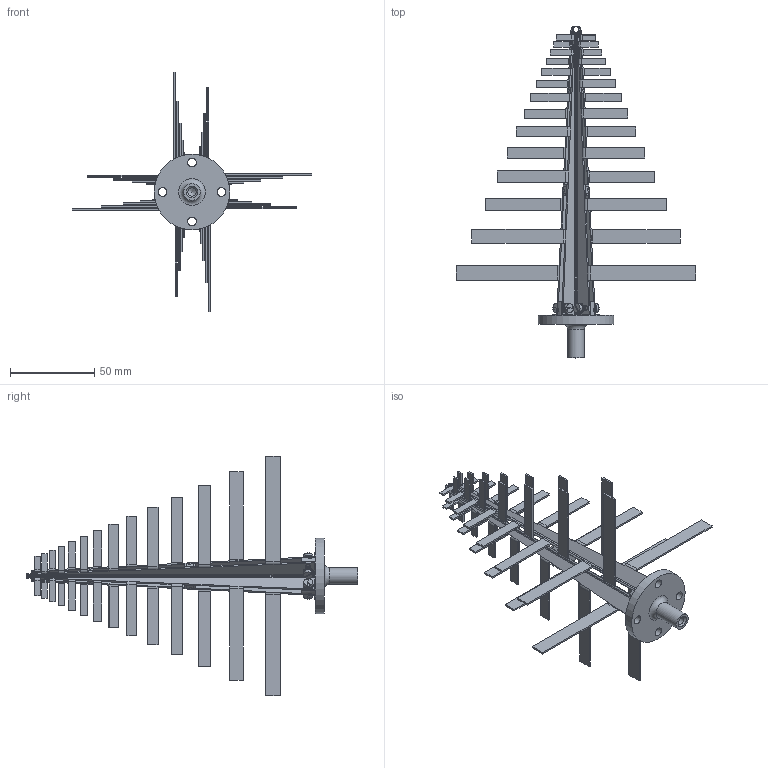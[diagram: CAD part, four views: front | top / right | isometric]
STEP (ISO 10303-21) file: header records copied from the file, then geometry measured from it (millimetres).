
FILE_DESCRIPTION(('STEP AP203'), '1');
FILE_NAME('挓鋹欑蠈錪', '', ('UNSPECIFIED'), ('UNSPECIFIED'), 'ASCON STEP Converter 1.3', 'ASCON Math Kernel', '');
FILE_SCHEMA(('CONFIG_CONTROL_DESIGN'));
Length unit declared in the file: millimetre
Assembly tree (31 placements, depth 2):
  (unnamed)
    (unnamed)
    (unnamed)  x2
    (unnamed)  x2
    (unnamed)
    (unnamed)
    (unnamed)  x8
    (unnamed)  x8
    (unnamed)
    (unnamed)
    (unnamed)
    (unnamed)
    (unnamed)
    (unnamed)
    (unnamed)
    (unnamed)
Bounding box: 142.65 x 197.6 x 142.65 mm (x, y, z)
Volume: 31187.7 mm3; surface area: 52515.6 mm2
Topology: 31 solids, 31 shells, 1008 faces, 2300 edges, 1378 vertices
Faces by surface type: plane 746, cylinder 223, bspline 28, cone 10, torus 1
Full cylindrical faces by diameter (mm): 2.5 x8, 3 x8, 3.2 x24, 4.917 x1, 5.2 x4, 5.5 x8, 6 x8, 8 x1, 10 x1, 27.5 x1, 45 x1
Entity records: 25238 total; most frequent: CARTESIAN_POINT 6529, DIRECTION 2676, ORIENTED_EDGE 2562, EDGE_CURVE 1281, LINE 926, VECTOR 926, AXIS2_PLACEMENT_3D 875, VERTEX_POINT 807
